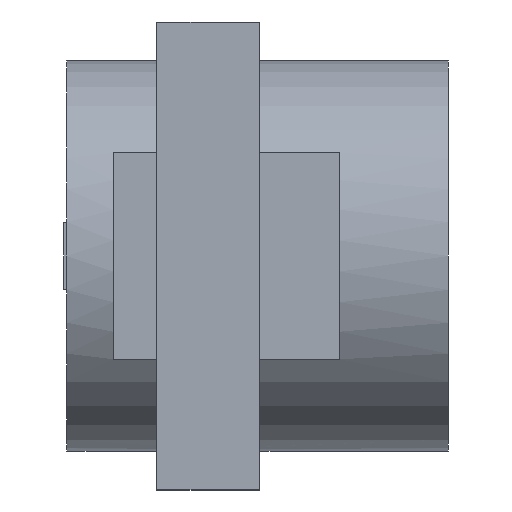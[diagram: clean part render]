
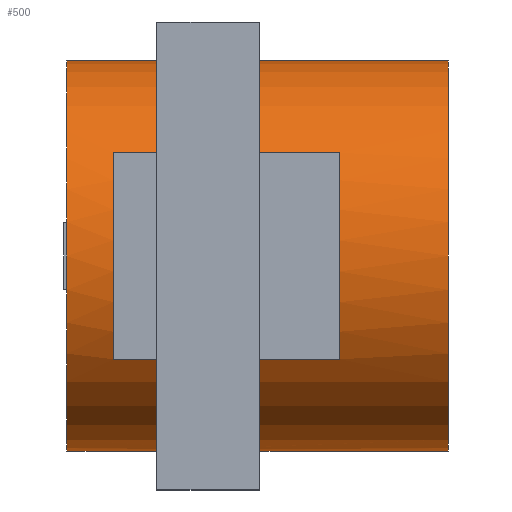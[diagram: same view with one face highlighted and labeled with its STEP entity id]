
A CAD part, front view. The second image highlights one B-rep face of the part: STEP entity #500.
In plain terms, the highlighted cylindrical face has radius 88.642 mm (diameter 177.283 mm), a full revolution.
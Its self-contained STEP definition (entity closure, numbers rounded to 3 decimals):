
#27=FACE_BOUND('',#107,.T.);
#28=FACE_BOUND('',#108,.T.);
#73=FACE_OUTER_BOUND('',#106,.T.);
#106=EDGE_LOOP('',(#392,#393,#394,#395));
#107=EDGE_LOOP('',(#396,#397));
#108=EDGE_LOOP('',(#398,#399,#400,#401));
#136=CIRCLE('',#605,88.642);
#137=CIRCLE('',#607,88.642);
#140=CIRCLE('',#614,88.642);
#141=CIRCLE('',#615,88.642);
#165=LINE('',#881,#212);
#166=LINE('',#882,#213);
#168=LINE('',#894,#215);
#212=VECTOR('',#692,10.);
#213=VECTOR('',#693,10.);
#215=VECTOR('',#707,88.642);
#244=B_SPLINE_CURVE_WITH_KNOTS('',3,(#805,#806,#807,#808,#809,#810,#811,
#812,#813,#814,#815,#816,#817,#818,#819,#820,#821,#822),.UNSPECIFIED.,.F.,
 .F.,(4,2,2,2,2,2,2,2,4),(0.,0.546,1.092,1.638,
2.184,2.73,3.275,3.821,4.367),
 .UNSPECIFIED.);
#245=B_SPLINE_CURVE_WITH_KNOTS('',3,(#823,#824,#825,#826,#827,#828,#829,
#830,#831,#832,#833,#834,#835,#836,#837,#838,#839,#840),.UNSPECIFIED.,.F.,
 .F.,(4,2,2,2,2,2,2,2,4),(4.367,4.913,5.459,
6.005,6.551,7.097,7.643,8.189,
8.734),.UNSPECIFIED.);
#246=VERTEX_POINT('',#803);
#247=VERTEX_POINT('',#804);
#257=VERTEX_POINT('',#871);
#258=VERTEX_POINT('',#872);
#259=VERTEX_POINT('',#876);
#260=VERTEX_POINT('',#877);
#263=VERTEX_POINT('',#891);
#264=VERTEX_POINT('',#893);
#289=EDGE_CURVE('',#246,#247,#244,.T.);
#290=EDGE_CURVE('',#247,#246,#245,.T.);
#305=EDGE_CURVE('',#257,#258,#136,.T.);
#307=EDGE_CURVE('',#259,#260,#137,.T.);
#309=EDGE_CURVE('',#260,#257,#165,.T.);
#310=EDGE_CURVE('',#258,#259,#166,.T.);
#314=EDGE_CURVE('',#263,#263,#140,.T.);
#315=EDGE_CURVE('',#263,#264,#168,.T.);
#316=EDGE_CURVE('',#264,#264,#141,.T.);
#392=ORIENTED_EDGE('',*,*,#314,.F.);
#393=ORIENTED_EDGE('',*,*,#315,.T.);
#394=ORIENTED_EDGE('',*,*,#316,.T.);
#395=ORIENTED_EDGE('',*,*,#315,.F.);
#396=ORIENTED_EDGE('',*,*,#289,.T.);
#397=ORIENTED_EDGE('',*,*,#290,.T.);
#398=ORIENTED_EDGE('',*,*,#307,.T.);
#399=ORIENTED_EDGE('',*,*,#309,.T.);
#400=ORIENTED_EDGE('',*,*,#305,.T.);
#401=ORIENTED_EDGE('',*,*,#310,.T.);
#483=CYLINDRICAL_SURFACE('',#613,88.642);
#500=ADVANCED_FACE('',(#73,#27,#28),#483,.T.);
#605=AXIS2_PLACEMENT_3D('',#873,#682,#683);
#607=AXIS2_PLACEMENT_3D('',#878,#687,#688);
#613=AXIS2_PLACEMENT_3D('',#890,#703,#704);
#614=AXIS2_PLACEMENT_3D('',#892,#705,#706);
#615=AXIS2_PLACEMENT_3D('',#895,#708,#709);
#682=DIRECTION('center_axis',(0.,1.,0.));
#683=DIRECTION('ref_axis',(1.,0.,0.));
#687=DIRECTION('center_axis',(0.,-1.,0.));
#688=DIRECTION('ref_axis',(1.,0.,0.));
#692=DIRECTION('',(0.,1.,0.));
#693=DIRECTION('',(0.,-1.,0.));
#703=DIRECTION('center_axis',(0.,1.,0.));
#704=DIRECTION('ref_axis',(1.,0.,0.));
#705=DIRECTION('center_axis',(0.,1.,0.));
#706=DIRECTION('ref_axis',(1.,0.,0.));
#707=DIRECTION('',(0.,-1.,0.));
#708=DIRECTION('center_axis',(0.,1.,0.));
#709=DIRECTION('ref_axis',(1.,0.,0.));
#803=CARTESIAN_POINT('',(14.464,64.068,-87.454));
#804=CARTESIAN_POINT('',(-14.464,64.068,-87.454));
#805=CARTESIAN_POINT('Ctrl Pts',(14.464,64.068,-87.454));
#806=CARTESIAN_POINT('Ctrl Pts',(14.464,65.888,-87.454));
#807=CARTESIAN_POINT('Ctrl Pts',(14.1,67.826,-87.516));
#808=CARTESIAN_POINT('Ctrl Pts',(12.623,71.389,-87.742));
#809=CARTESIAN_POINT('Ctrl Pts',(11.51,73.013,-87.901));
#810=CARTESIAN_POINT('Ctrl Pts',(8.946,75.578,-88.199));
#811=CARTESIAN_POINT('Ctrl Pts',(7.321,76.691,-88.357));
#812=CARTESIAN_POINT('Ctrl Pts',(3.758,78.168,-88.58));
#813=CARTESIAN_POINT('Ctrl Pts',(1.82,78.532,-88.642));
#814=CARTESIAN_POINT('Ctrl Pts',(-1.82,78.532,-88.642));
#815=CARTESIAN_POINT('Ctrl Pts',(-3.758,78.168,-88.58));
#816=CARTESIAN_POINT('Ctrl Pts',(-7.321,76.691,-88.357));
#817=CARTESIAN_POINT('Ctrl Pts',(-8.946,75.578,-88.199));
#818=CARTESIAN_POINT('Ctrl Pts',(-11.51,73.013,-87.901));
#819=CARTESIAN_POINT('Ctrl Pts',(-12.623,71.389,-87.742));
#820=CARTESIAN_POINT('Ctrl Pts',(-14.1,67.826,-87.516));
#821=CARTESIAN_POINT('Ctrl Pts',(-14.464,65.888,-87.454));
#822=CARTESIAN_POINT('Ctrl Pts',(-14.464,64.068,-87.454));
#823=CARTESIAN_POINT('Ctrl Pts',(-14.464,64.068,-87.454));
#824=CARTESIAN_POINT('Ctrl Pts',(-14.464,62.248,-87.454));
#825=CARTESIAN_POINT('Ctrl Pts',(-14.1,60.309,-87.516));
#826=CARTESIAN_POINT('Ctrl Pts',(-12.623,56.747,-87.742));
#827=CARTESIAN_POINT('Ctrl Pts',(-11.51,55.122,-87.901));
#828=CARTESIAN_POINT('Ctrl Pts',(-8.946,52.558,-88.199));
#829=CARTESIAN_POINT('Ctrl Pts',(-7.321,51.445,-88.357));
#830=CARTESIAN_POINT('Ctrl Pts',(-3.758,49.968,-88.58));
#831=CARTESIAN_POINT('Ctrl Pts',(-1.82,49.603,-88.642));
#832=CARTESIAN_POINT('Ctrl Pts',(1.82,49.603,-88.642));
#833=CARTESIAN_POINT('Ctrl Pts',(3.758,49.968,-88.58));
#834=CARTESIAN_POINT('Ctrl Pts',(7.321,51.445,-88.357));
#835=CARTESIAN_POINT('Ctrl Pts',(8.946,52.558,-88.199));
#836=CARTESIAN_POINT('Ctrl Pts',(11.51,55.122,-87.901));
#837=CARTESIAN_POINT('Ctrl Pts',(12.623,56.747,-87.742));
#838=CARTESIAN_POINT('Ctrl Pts',(14.1,60.309,-87.516));
#839=CARTESIAN_POINT('Ctrl Pts',(14.464,62.248,-87.454));
#840=CARTESIAN_POINT('Ctrl Pts',(14.464,64.068,-87.454));
#871=CARTESIAN_POINT('',(75.247,123.757,46.853));
#872=CARTESIAN_POINT('',(75.247,123.757,-46.853));
#873=CARTESIAN_POINT('Origin',(0.,123.757,0.));
#876=CARTESIAN_POINT('',(75.247,21.,-46.853));
#877=CARTESIAN_POINT('',(75.247,21.,46.853));
#878=CARTESIAN_POINT('Origin',(0.,21.,0.));
#881=CARTESIAN_POINT('',(75.247,0.,46.853));
#882=CARTESIAN_POINT('',(75.247,0.,-46.853));
#890=CARTESIAN_POINT('Origin',(0.,0.,
0.));
#891=CARTESIAN_POINT('',(-88.642,173.,0.));
#892=CARTESIAN_POINT('Origin',(0.,173.,0.));
#893=CARTESIAN_POINT('',(-88.642,0.,0.));
#894=CARTESIAN_POINT('',(-88.642,0.,0.));
#895=CARTESIAN_POINT('Origin',(0.,0.,
0.));
